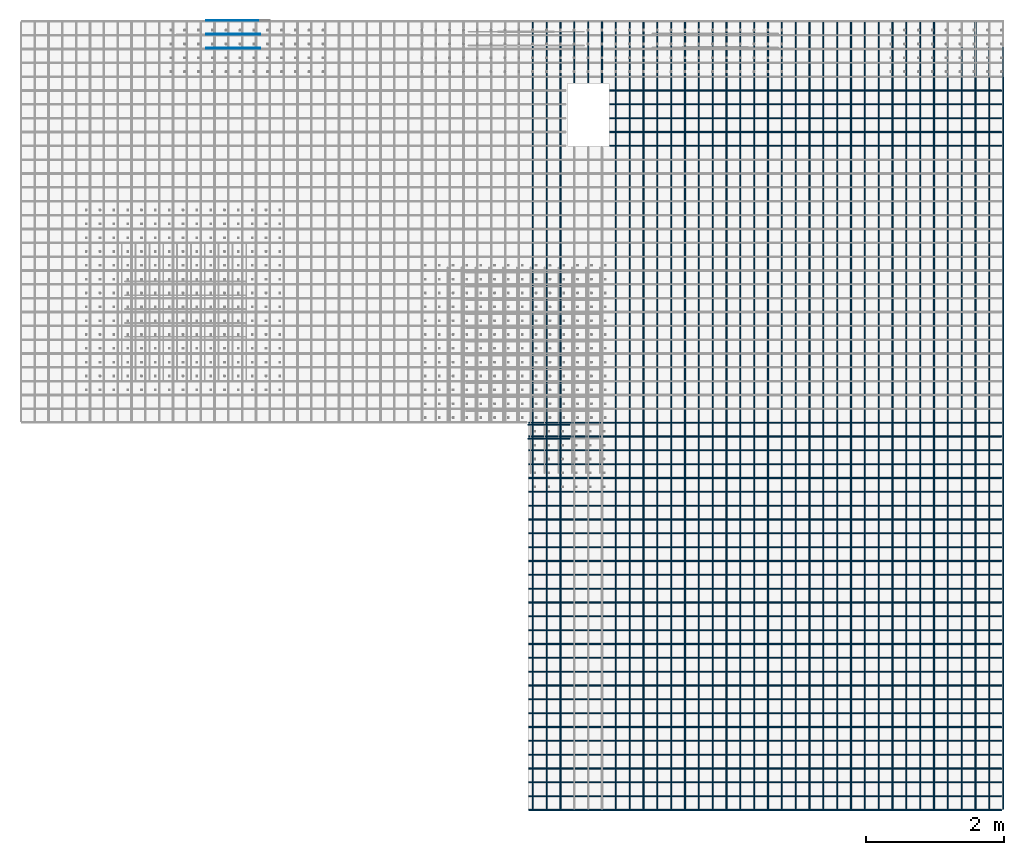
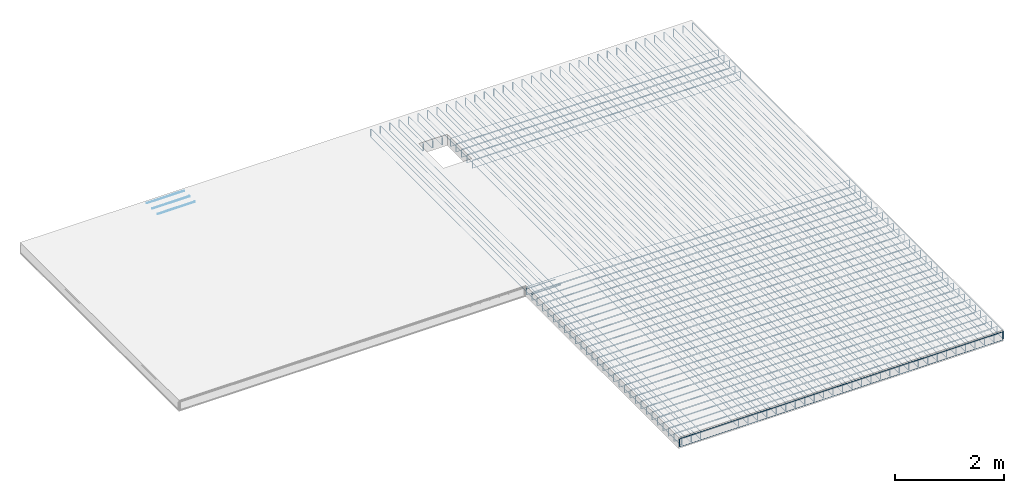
# One storey, part 3 of 4: 8 reinforcing bars.
"""IFC4 building model written with IfcOpenShell, lengths in metres."""

from ifc_helpers import new_model, entity, si_unit, frame, origin_with_axes, place, context, project, spatial, source, transform, mapped, element, save


model = new_model("IFC4")

# Units and contexts
model_context = context("Model", 3, precision=1e-05, world=origin_with_axes())
ifc_project = project(units=[si_unit("LENGTHUNIT", "METRE"), si_unit("AREAUNIT", "SQUARE_METRE"), si_unit("VOLUMEUNIT", "CUBIC_METRE"), si_unit("MASSUNIT", "GRAM", prefix="KILO"), si_unit("TIMEUNIT", "SECOND"), si_unit("PLANEANGLEUNIT", "RADIAN"), si_unit("SOLIDANGLEUNIT", "STERADIAN"), si_unit("THERMODYNAMICTEMPERATUREUNIT", "DEGREE_CELSIUS")], contexts=[model_context])

# Site, building, storey
placement_1 = place(None, origin_with_axes())
site = spatial("IfcSite", under=ifc_project, at=placement_1, Name="Italia", CompositionType="ELEMENT")
building = spatial("IfcBuilding", under=site, at=placement_1, Name="Abitazione", CompositionType="ELEMENT")
storey_placement = place(None, frame((0.0, 0.0, 6.730000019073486), z_axis=(0.0, 0.0, 1.0), x_axis=(1.0, 0.0, 0.0)))
storey = spatial("IfcBuildingStorey", under=building, at=storey_placement, Name="Storey 2", CompositionType="ELEMENT", Elevation=6.730000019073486)

# Reinforcing bars
shared_shape_1 = source(origin_with_axes(), model_context, "Body", "AdvancedSweptSolid", [
    entity("IfcSweptDiskSolid", entity("IfcIndexedPolyCurve", entity("IfcCartesianPointList3D", [[8.142, -0.00600027, 6.534], [8.142, -0.00600027, 6.69], [8.14276, -0.00600027, 6.69383], [8.14493, -0.00600027, 6.69707], [8.14817, -0.00600027, 6.69924], [8.152, -0.00600027, 6.7], [14.966, -0.00600027, 6.7], [14.9698, -0.00600027, 6.69924], [14.9731, -0.00600027, 6.69707], [14.9752, -0.00600027, 6.69383], [14.976, -0.00600027, 6.69], [14.976, -0.00600027, 6.534]]), [entity("IfcLineIndex", [1, 2]), entity("IfcLineIndex", [2, 3]), entity("IfcLineIndex", [3, 4]), entity("IfcLineIndex", [4, 5]), entity("IfcLineIndex", [5, 6]), entity("IfcLineIndex", [6, 7]), entity("IfcLineIndex", [7, 8]), entity("IfcLineIndex", [8, 9]), entity("IfcLineIndex", [9, 10]), entity("IfcLineIndex", [10, 11]), entity("IfcLineIndex", [11, 12])], False), 0.006),
])
placement_2 = place(placement_1, origin_with_axes())
reinforcing_bar_1_placement = place(placement_2, origin_with_axes())
element("IfcReinforcingBar", 1, at=reinforcing_bar_1_placement, inside=storey, BarLength=7.15721, CrossSectionArea=0.0001131, NominalDiameter=0.012, context=model_context, shape_type="MappedRepresentation", body=[
    mapped(shared_shape_1, transform((0.0, 0.0, 13.21), x_axis=(1.0, 0.0, 0.0), y_axis=(0.0, -1.0, 0.0), z_axis=(0.0, 0.0, -1.0), scale=1.0)),
    mapped(shared_shape_1, transform((0.0, 1.8, 13.21), x_axis=(1.0, 0.0, 0.0), y_axis=(0.0, -1.0, 0.0), z_axis=(0.0, 0.0, -1.0), scale=1.0)),
    mapped(shared_shape_1, transform((0.0, 0.199999, 13.21), x_axis=(1.0, 0.0, 0.0), y_axis=(0.0, -1.0, 0.0), z_axis=(0.0, 0.0, -1.0), scale=1.0)),
    mapped(shared_shape_1, transform((0.0, 2.0, 13.21), x_axis=(1.0, 0.0, 0.0), y_axis=(0.0, -1.0, 0.0), z_axis=(0.0, 0.0, -1.0), scale=1.0)),
    mapped(shared_shape_1, transform((0.0, 2.4, 13.21), x_axis=(1.0, 0.0, 0.0), y_axis=(0.0, -1.0, 0.0), z_axis=(0.0, 0.0, -1.0), scale=1.0)),
    mapped(shared_shape_1, transform((0.0, 2.2, 13.21), x_axis=(1.0, 0.0, 0.0), y_axis=(0.0, -1.0, 0.0), z_axis=(0.0, 0.0, -1.0), scale=1.0)),
    mapped(shared_shape_1, transform((0.0, 2.6, 13.21), x_axis=(1.0, 0.0, 0.0), y_axis=(0.0, -1.0, 0.0), z_axis=(0.0, 0.0, -1.0), scale=1.0)),
    mapped(shared_shape_1, transform((0.0, 1.6, 13.21), x_axis=(1.0, 0.0, 0.0), y_axis=(0.0, -1.0, 0.0), z_axis=(0.0, 0.0, -1.0), scale=1.0)),
    mapped(shared_shape_1, transform((0.0, 1.4, 13.21), x_axis=(1.0, 0.0, 0.0), y_axis=(0.0, -1.0, 0.0), z_axis=(0.0, 0.0, -1.0), scale=1.0)),
    mapped(shared_shape_1, transform((0.0, 0.399999, 13.21), x_axis=(1.0, 0.0, 0.0), y_axis=(0.0, -1.0, 0.0), z_axis=(0.0, 0.0, -1.0), scale=1.0)),
    mapped(shared_shape_1, transform((0.0, 0.799999, 13.21), x_axis=(1.0, 0.0, 0.0), y_axis=(0.0, -1.0, 0.0), z_axis=(0.0, 0.0, -1.0), scale=1.0)),
    mapped(shared_shape_1, transform((0.0, 0.599999, 13.21), x_axis=(1.0, 0.0, 0.0), y_axis=(0.0, -1.0, 0.0), z_axis=(0.0, 0.0, -1.0), scale=1.0)),
    mapped(shared_shape_1, transform((0.0, 0.999999, 13.21), x_axis=(1.0, 0.0, 0.0), y_axis=(0.0, -1.0, 0.0), z_axis=(0.0, 0.0, -1.0), scale=1.0)),
    mapped(shared_shape_1, transform((0.0, 2.8, 13.21), x_axis=(1.0, 0.0, 0.0), y_axis=(0.0, -1.0, 0.0), z_axis=(0.0, 0.0, -1.0), scale=1.0)),
    mapped(shared_shape_1, transform((0.0, 1.2, 13.21), x_axis=(1.0, 0.0, 0.0), y_axis=(0.0, -1.0, 0.0), z_axis=(0.0, 0.0, -1.0), scale=1.0)),
    mapped(shared_shape_1, transform((0.0, 3.0, 13.21), x_axis=(1.0, 0.0, 0.0), y_axis=(0.0, -1.0, 0.0), z_axis=(0.0, 0.0, -1.0), scale=1.0)),
    mapped(shared_shape_1, transform((0.0, 4.8, 13.21), x_axis=(1.0, 0.0, 0.0), y_axis=(0.0, -1.0, 0.0), z_axis=(0.0, 0.0, -1.0), scale=1.0)),
    mapped(shared_shape_1, transform((0.0, 4.6, 13.21), x_axis=(1.0, 0.0, 0.0), y_axis=(0.0, -1.0, 0.0), z_axis=(0.0, 0.0, -1.0), scale=1.0)),
    mapped(shared_shape_1, transform((0.0, 5.0, 13.21), x_axis=(1.0, 0.0, 0.0), y_axis=(0.0, -1.0, 0.0), z_axis=(0.0, 0.0, -1.0), scale=1.0)),
    mapped(shared_shape_1, transform((0.0, 5.4, 13.21), x_axis=(1.0, 0.0, 0.0), y_axis=(0.0, -1.0, 0.0), z_axis=(0.0, 0.0, -1.0), scale=1.0)),
    mapped(shared_shape_1, transform((0.0, 5.2, 13.21), x_axis=(1.0, 0.0, 0.0), y_axis=(0.0, -1.0, 0.0), z_axis=(0.0, 0.0, -1.0), scale=1.0)),
    mapped(shared_shape_1, transform((0.0, 4.2, 13.21), x_axis=(1.0, 0.0, 0.0), y_axis=(0.0, -1.0, 0.0), z_axis=(0.0, 0.0, -1.0), scale=1.0)),
    mapped(shared_shape_1, transform((0.0, 3.2, 13.21), x_axis=(1.0, 0.0, 0.0), y_axis=(0.0, -1.0, 0.0), z_axis=(0.0, 0.0, -1.0), scale=1.0)),
    mapped(shared_shape_1, transform((0.0, 4.4, 13.21), x_axis=(1.0, 0.0, 0.0), y_axis=(0.0, -1.0, 0.0), z_axis=(0.0, 0.0, -1.0), scale=1.0)),
    mapped(shared_shape_1, transform((0.0, 3.4, 13.21), x_axis=(1.0, 0.0, 0.0), y_axis=(0.0, -1.0, 0.0), z_axis=(0.0, 0.0, -1.0), scale=1.0)),
    mapped(shared_shape_1, transform((0.0, 3.8, 13.21), x_axis=(1.0, 0.0, 0.0), y_axis=(0.0, -1.0, 0.0), z_axis=(0.0, 0.0, -1.0), scale=1.0)),
    mapped(shared_shape_1, transform((0.0, 3.6, 13.21), x_axis=(1.0, 0.0, 0.0), y_axis=(0.0, -1.0, 0.0), z_axis=(0.0, 0.0, -1.0), scale=1.0)),
    mapped(shared_shape_1, transform((0.0, 4.0, 13.21), x_axis=(1.0, 0.0, 0.0), y_axis=(0.0, -1.0, 0.0), z_axis=(0.0, 0.0, -1.0), scale=1.0)),
    mapped(shared_shape_1, transform((0.0, 0.0, 0.0), x_axis=(1.0, 0.0, 0.0), y_axis=(0.0, 1.0, 0.0), z_axis=(0.0, 0.0, 1.0), scale=1.0)),
    mapped(shared_shape_1, transform((0.0, 5.6, 13.21), x_axis=(1.0, 0.0, 0.0), y_axis=(0.0, -1.0, 0.0), z_axis=(0.0, 0.0, -1.0), scale=1.0)),
    mapped(shared_shape_1, transform((0.0, 1.6, 0.0), x_axis=(1.0, 0.0, 0.0), y_axis=(0.0, 1.0, 0.0), z_axis=(0.0, 0.0, 1.0), scale=1.0)),
    mapped(shared_shape_1, transform((0.0, 2.0, 0.0), x_axis=(1.0, 0.0, 0.0), y_axis=(0.0, 1.0, 0.0), z_axis=(0.0, 0.0, 1.0), scale=1.0)),
    mapped(shared_shape_1, transform((0.0, 1.8, 0.0), x_axis=(1.0, 0.0, 0.0), y_axis=(0.0, 1.0, 0.0), z_axis=(0.0, 0.0, 1.0), scale=1.0)),
    mapped(shared_shape_1, transform((0.0, 2.2, 0.0), x_axis=(1.0, 0.0, 0.0), y_axis=(0.0, 1.0, 0.0), z_axis=(0.0, 0.0, 1.0), scale=1.0)),
    mapped(shared_shape_1, transform((0.0, 1.2, 0.0), x_axis=(1.0, 0.0, 0.0), y_axis=(0.0, 1.0, 0.0), z_axis=(0.0, 0.0, 1.0), scale=1.0)),
    mapped(shared_shape_1, transform((0.0, 2.4, 0.0), x_axis=(1.0, 0.0, 0.0), y_axis=(0.0, 1.0, 0.0), z_axis=(0.0, 0.0, 1.0), scale=1.0)),
    mapped(shared_shape_1, transform((0.0, 1.4, 0.0), x_axis=(1.0, 0.0, 0.0), y_axis=(0.0, 1.0, 0.0), z_axis=(0.0, 0.0, 1.0), scale=1.0)),
    mapped(shared_shape_1, transform((0.0, 0.4, 0.0), x_axis=(1.0, 0.0, 0.0), y_axis=(0.0, 1.0, 0.0), z_axis=(0.0, 0.0, 1.0), scale=1.0)),
    mapped(shared_shape_1, transform((0.0, 0.2, 0.0), x_axis=(1.0, 0.0, 0.0), y_axis=(0.0, 1.0, 0.0), z_axis=(0.0, 0.0, 1.0), scale=1.0)),
    mapped(shared_shape_1, transform((0.0, 0.6, 0.0), x_axis=(1.0, 0.0, 0.0), y_axis=(0.0, 1.0, 0.0), z_axis=(0.0, 0.0, 1.0), scale=1.0)),
    mapped(shared_shape_1, transform((0.0, 1.0, 0.0), x_axis=(1.0, 0.0, 0.0), y_axis=(0.0, 1.0, 0.0), z_axis=(0.0, 0.0, 1.0), scale=1.0)),
    mapped(shared_shape_1, transform((0.0, 0.8, 0.0), x_axis=(1.0, 0.0, 0.0), y_axis=(0.0, 1.0, 0.0), z_axis=(0.0, 0.0, 1.0), scale=1.0)),
    mapped(shared_shape_1, transform((0.0, 2.6, 0.0), x_axis=(1.0, 0.0, 0.0), y_axis=(0.0, 1.0, 0.0), z_axis=(0.0, 0.0, 1.0), scale=1.0)),
    mapped(shared_shape_1, transform((0.0, 4.4, 0.0), x_axis=(1.0, 0.0, 0.0), y_axis=(0.0, 1.0, 0.0), z_axis=(0.0, 0.0, 1.0), scale=1.0)),
    mapped(shared_shape_1, transform((0.0, 2.8, 0.0), x_axis=(1.0, 0.0, 0.0), y_axis=(0.0, 1.0, 0.0), z_axis=(0.0, 0.0, 1.0), scale=1.0)),
    mapped(shared_shape_1, transform((0.0, 4.6, 0.0), x_axis=(1.0, 0.0, 0.0), y_axis=(0.0, 1.0, 0.0), z_axis=(0.0, 0.0, 1.0), scale=1.0)),
    mapped(shared_shape_1, transform((0.0, 5.0, 0.0), x_axis=(1.0, 0.0, 0.0), y_axis=(0.0, 1.0, 0.0), z_axis=(0.0, 0.0, 1.0), scale=1.0)),
    mapped(shared_shape_1, transform((0.0, 4.8, 0.0), x_axis=(1.0, 0.0, 0.0), y_axis=(0.0, 1.0, 0.0), z_axis=(0.0, 0.0, 1.0), scale=1.0)),
    mapped(shared_shape_1, transform((0.0, 5.2, 0.0), x_axis=(1.0, 0.0, 0.0), y_axis=(0.0, 1.0, 0.0), z_axis=(0.0, 0.0, 1.0), scale=1.0)),
    mapped(shared_shape_1, transform((0.0, 4.2, 0.0), x_axis=(1.0, 0.0, 0.0), y_axis=(0.0, 1.0, 0.0), z_axis=(0.0, 0.0, 1.0), scale=1.0)),
    mapped(shared_shape_1, transform((0.0, 4.0, 0.0), x_axis=(1.0, 0.0, 0.0), y_axis=(0.0, 1.0, 0.0), z_axis=(0.0, 0.0, 1.0), scale=1.0)),
    mapped(shared_shape_1, transform((0.0, 3.0, 0.0), x_axis=(1.0, 0.0, 0.0), y_axis=(0.0, 1.0, 0.0), z_axis=(0.0, 0.0, 1.0), scale=1.0)),
    mapped(shared_shape_1, transform((0.0, 3.4, 0.0), x_axis=(1.0, 0.0, 0.0), y_axis=(0.0, 1.0, 0.0), z_axis=(0.0, 0.0, 1.0), scale=1.0)),
    mapped(shared_shape_1, transform((0.0, 3.2, 0.0), x_axis=(1.0, 0.0, 0.0), y_axis=(0.0, 1.0, 0.0), z_axis=(0.0, 0.0, 1.0), scale=1.0)),
    mapped(shared_shape_1, transform((0.0, 3.6, 0.0), x_axis=(1.0, 0.0, 0.0), y_axis=(0.0, 1.0, 0.0), z_axis=(0.0, 0.0, 1.0), scale=1.0)),
    mapped(shared_shape_1, transform((0.0, 5.4, 0.0), x_axis=(1.0, 0.0, 0.0), y_axis=(0.0, 1.0, 0.0), z_axis=(0.0, 0.0, 1.0), scale=1.0)),
    mapped(shared_shape_1, transform((0.0, 3.8, 0.0), x_axis=(1.0, 0.0, 0.0), y_axis=(0.0, 1.0, 0.0), z_axis=(0.0, 0.0, 1.0), scale=1.0)),
    mapped(shared_shape_1, transform((0.0, 5.6, 0.0), x_axis=(1.0, 0.0, 0.0), y_axis=(0.0, 1.0, 0.0), z_axis=(0.0, 0.0, 1.0), scale=1.0)),
])
shared_shape_2 = source(origin_with_axes(), model_context, "Body", "AdvancedSweptSolid", [
    entity("IfcSweptDiskSolid", entity("IfcIndexedPolyCurve", entity("IfcCartesianPointList3D", [[9.312, 9.594, 6.534], [9.312, 9.594, 6.69], [9.31276, 9.594, 6.69383], [9.31493, 9.594, 6.69707], [9.31817, 9.594, 6.69924], [9.322, 9.594, 6.7], [14.966, 9.594, 6.7], [14.9698, 9.594, 6.69924], [14.9731, 9.594, 6.69707], [14.9752, 9.594, 6.69383], [14.976, 9.594, 6.69], [14.976, 9.594, 6.534]]), [entity("IfcLineIndex", [1, 2]), entity("IfcLineIndex", [2, 3]), entity("IfcLineIndex", [3, 4]), entity("IfcLineIndex", [4, 5]), entity("IfcLineIndex", [5, 6]), entity("IfcLineIndex", [6, 7]), entity("IfcLineIndex", [7, 8]), entity("IfcLineIndex", [8, 9]), entity("IfcLineIndex", [9, 10]), entity("IfcLineIndex", [10, 11]), entity("IfcLineIndex", [11, 12])], False), 0.006),
])
reinforcing_bar_2_placement = place(placement_2, origin_with_axes())
element("IfcReinforcingBar", 2, at=reinforcing_bar_2_placement, inside=storey, BarLength=5.98721, CrossSectionArea=0.0001131, NominalDiameter=0.012, context=model_context, shape_type="MappedRepresentation", body=[
    mapped(shared_shape_2, transform((0.0, 19.4, 13.21), x_axis=(1.0, 0.0, 0.0), y_axis=(0.0, -1.0, 0.0), z_axis=(0.0, 0.0, -1.0), scale=1.0)),
    mapped(shared_shape_2, transform((0.0, 19.2, 13.21), x_axis=(1.0, 0.0, 0.0), y_axis=(0.0, -1.0, 0.0), z_axis=(0.0, 0.0, -1.0), scale=1.0)),
    mapped(shared_shape_2, transform((0.0, 19.8, 13.21), x_axis=(1.0, 0.0, 0.0), y_axis=(0.0, -1.0, 0.0), z_axis=(0.0, 0.0, -1.0), scale=1.0)),
    mapped(shared_shape_2, transform((0.0, 19.6, 13.21), x_axis=(1.0, 0.0, 0.0), y_axis=(0.0, -1.0, 0.0), z_axis=(0.0, 0.0, -1.0), scale=1.0)),
    mapped(shared_shape_2, transform((0.0, 0.0, 0.0), x_axis=(1.0, 0.0, 0.0), y_axis=(0.0, 1.0, 0.0), z_axis=(0.0, 0.0, 1.0), scale=1.0)),
    mapped(shared_shape_2, transform((0.0, 20.0, 13.21), x_axis=(1.0, 0.0, 0.0), y_axis=(0.0, -1.0, 0.0), z_axis=(0.0, 0.0, -1.0), scale=1.0)),
    mapped(shared_shape_2, transform((0.0, 0.399999, 0.0), x_axis=(1.0, 0.0, 0.0), y_axis=(0.0, 1.0, 0.0), z_axis=(0.0, 0.0, 1.0), scale=1.0)),
    mapped(shared_shape_2, transform((0.0, 0.199999, 0.0), x_axis=(1.0, 0.0, 0.0), y_axis=(0.0, 1.0, 0.0), z_axis=(0.0, 0.0, 1.0), scale=1.0)),
    mapped(shared_shape_2, transform((0.0, 0.799998, 0.0), x_axis=(1.0, 0.0, 0.0), y_axis=(0.0, 1.0, 0.0), z_axis=(0.0, 0.0, 1.0), scale=1.0)),
    mapped(shared_shape_2, transform((0.0, 0.599998, 0.0), x_axis=(1.0, 0.0, 0.0), y_axis=(0.0, 1.0, 0.0), z_axis=(0.0, 0.0, 1.0), scale=1.0)),
])
shared_shape_3 = source(origin_with_axes(), model_context, "Body", "AdvancedSweptSolid", [
    entity("IfcSweptDiskSolid", entity("IfcIndexedPolyCurve", entity("IfcCartesianPointList3D", [[8.206, 0.012, 6.522], [8.206, 0.012, 6.678], [8.206, 0.0127612, 6.68183], [8.206, 0.0149289, 6.68507], [8.206, 0.0181732, 6.68724], [8.206, 0.022, 6.688], [8.206, 11.386, 6.688], [8.206, 11.3898, 6.68724], [8.206, 11.3931, 6.68507], [8.206, 11.3952, 6.68183], [8.206, 11.396, 6.678], [8.206, 11.396, 6.522]]), [entity("IfcLineIndex", [1, 2]), entity("IfcLineIndex", [2, 3]), entity("IfcLineIndex", [3, 4]), entity("IfcLineIndex", [4, 5]), entity("IfcLineIndex", [5, 6]), entity("IfcLineIndex", [6, 7]), entity("IfcLineIndex", [7, 8]), entity("IfcLineIndex", [8, 9]), entity("IfcLineIndex", [9, 10]), entity("IfcLineIndex", [10, 11]), entity("IfcLineIndex", [11, 12])], False), 0.006),
])
reinforcing_bar_3_placement = place(placement_2, origin_with_axes())
element("IfcReinforcingBar", 3, at=reinforcing_bar_3_placement, inside=storey, BarLength=11.7072, CrossSectionArea=0.0001131, NominalDiameter=0.012, context=model_context, shape_type="MappedRepresentation", body=[
    mapped(shared_shape_3, transform((4.8, 0.0, 0.0), x_axis=(1.0, 0.0, 0.0), y_axis=(0.0, 1.0, 0.0), z_axis=(0.0, 0.0, 1.0), scale=1.0)),
    mapped(shared_shape_3, transform((4.6, 0.0, 0.0), x_axis=(1.0, 0.0, 0.0), y_axis=(0.0, 1.0, 0.0), z_axis=(0.0, 0.0, 1.0), scale=1.0)),
    mapped(shared_shape_3, transform((5.2, 0.0, 0.0), x_axis=(1.0, 0.0, 0.0), y_axis=(0.0, 1.0, 0.0), z_axis=(0.0, 0.0, 1.0), scale=1.0)),
    mapped(shared_shape_3, transform((5.0, 0.0, 0.0), x_axis=(1.0, 0.0, 0.0), y_axis=(0.0, 1.0, 0.0), z_axis=(0.0, 0.0, 1.0), scale=1.0)),
    mapped(shared_shape_3, transform((4.0, 0.0, 0.0), x_axis=(1.0, 0.0, 0.0), y_axis=(0.0, 1.0, 0.0), z_axis=(0.0, 0.0, 1.0), scale=1.0)),
    mapped(shared_shape_3, transform((3.8, 0.0, 0.0), x_axis=(1.0, 0.0, 0.0), y_axis=(0.0, 1.0, 0.0), z_axis=(0.0, 0.0, 1.0), scale=1.0)),
    mapped(shared_shape_3, transform((4.4, 0.0, 0.0), x_axis=(1.0, 0.0, 0.0), y_axis=(0.0, 1.0, 0.0), z_axis=(0.0, 0.0, 1.0), scale=1.0)),
    mapped(shared_shape_3, transform((4.2, 0.0, 0.0), x_axis=(1.0, 0.0, 0.0), y_axis=(0.0, 1.0, 0.0), z_axis=(0.0, 0.0, 1.0), scale=1.0)),
    mapped(shared_shape_3, transform((6.39999, 0.0, 0.0), x_axis=(1.0, 0.0, 0.0), y_axis=(0.0, 1.0, 0.0), z_axis=(0.0, 0.0, 1.0), scale=1.0)),
    mapped(shared_shape_3, transform((6.19999, 0.0, 0.0), x_axis=(1.0, 0.0, 0.0), y_axis=(0.0, 1.0, 0.0), z_axis=(0.0, 0.0, 1.0), scale=1.0)),
    mapped(shared_shape_3, transform((6.79999, 0.0, 0.0), x_axis=(1.0, 0.0, 0.0), y_axis=(0.0, 1.0, 0.0), z_axis=(0.0, 0.0, 1.0), scale=1.0)),
    mapped(shared_shape_3, transform((6.59999, 0.0, 0.0), x_axis=(1.0, 0.0, 0.0), y_axis=(0.0, 1.0, 0.0), z_axis=(0.0, 0.0, 1.0), scale=1.0)),
    mapped(shared_shape_3, transform((5.59999, 0.0, 0.0), x_axis=(1.0, 0.0, 0.0), y_axis=(0.0, 1.0, 0.0), z_axis=(0.0, 0.0, 1.0), scale=1.0)),
    mapped(shared_shape_3, transform((5.39999, 0.0, 0.0), x_axis=(1.0, 0.0, 0.0), y_axis=(0.0, 1.0, 0.0), z_axis=(0.0, 0.0, 1.0), scale=1.0)),
    mapped(shared_shape_3, transform((5.99999, 0.0, 0.0), x_axis=(1.0, 0.0, 0.0), y_axis=(0.0, 1.0, 0.0), z_axis=(0.0, 0.0, 1.0), scale=1.0)),
    mapped(shared_shape_3, transform((5.79999, 0.0, 0.0), x_axis=(1.0, 0.0, 0.0), y_axis=(0.0, 1.0, 0.0), z_axis=(0.0, 0.0, 1.0), scale=1.0)),
    mapped(shared_shape_3, transform((1.6, 0.0, 0.0), x_axis=(1.0, 0.0, 0.0), y_axis=(0.0, 1.0, 0.0), z_axis=(0.0, 0.0, 1.0), scale=1.0)),
    mapped(shared_shape_3, transform((1.4, 0.0, 0.0), x_axis=(1.0, 0.0, 0.0), y_axis=(0.0, 1.0, 0.0), z_axis=(0.0, 0.0, 1.0), scale=1.0)),
    mapped(shared_shape_3, transform((2.0, 0.0, 0.0), x_axis=(1.0, 0.0, 0.0), y_axis=(0.0, 1.0, 0.0), z_axis=(0.0, 0.0, 1.0), scale=1.0)),
    mapped(shared_shape_3, transform((1.8, 0.0, 0.0), x_axis=(1.0, 0.0, 0.0), y_axis=(0.0, 1.0, 0.0), z_axis=(0.0, 0.0, 1.0), scale=1.0)),
    mapped(shared_shape_3, transform((0.2, 0.0, 0.0), x_axis=(1.0, 0.0, 0.0), y_axis=(0.0, 1.0, 0.0), z_axis=(0.0, 0.0, 1.0), scale=1.0)),
    mapped(shared_shape_3, transform((0.0, 0.0, 0.0), x_axis=(1.0, 0.0, 0.0), y_axis=(0.0, 1.0, 0.0), z_axis=(0.0, 0.0, 1.0), scale=1.0)),
    mapped(shared_shape_3, transform((1.2, 0.0, 0.0), x_axis=(1.0, 0.0, 0.0), y_axis=(0.0, 1.0, 0.0), z_axis=(0.0, 0.0, 1.0), scale=1.0)),
    mapped(shared_shape_3, transform((0.4, 0.0, 0.0), x_axis=(1.0, 0.0, 0.0), y_axis=(0.0, 1.0, 0.0), z_axis=(0.0, 0.0, 1.0), scale=1.0)),
    mapped(shared_shape_3, transform((3.2, 0.0, 0.0), x_axis=(1.0, 0.0, 0.0), y_axis=(0.0, 1.0, 0.0), z_axis=(0.0, 0.0, 1.0), scale=1.0)),
    mapped(shared_shape_3, transform((3.0, 0.0, 0.0), x_axis=(1.0, 0.0, 0.0), y_axis=(0.0, 1.0, 0.0), z_axis=(0.0, 0.0, 1.0), scale=1.0)),
    mapped(shared_shape_3, transform((3.6, 0.0, 0.0), x_axis=(1.0, 0.0, 0.0), y_axis=(0.0, 1.0, 0.0), z_axis=(0.0, 0.0, 1.0), scale=1.0)),
    mapped(shared_shape_3, transform((3.4, 0.0, 0.0), x_axis=(1.0, 0.0, 0.0), y_axis=(0.0, 1.0, 0.0), z_axis=(0.0, 0.0, 1.0), scale=1.0)),
    mapped(shared_shape_3, transform((2.4, 0.0, 0.0), x_axis=(1.0, 0.0, 0.0), y_axis=(0.0, 1.0, 0.0), z_axis=(0.0, 0.0, 1.0), scale=1.0)),
    mapped(shared_shape_3, transform((2.2, 0.0, 0.0), x_axis=(1.0, 0.0, 0.0), y_axis=(0.0, 1.0, 0.0), z_axis=(0.0, 0.0, 1.0), scale=1.0)),
    mapped(shared_shape_3, transform((2.8, 0.0, 0.0), x_axis=(1.0, 0.0, 0.0), y_axis=(0.0, 1.0, 0.0), z_axis=(0.0, 0.0, 1.0), scale=1.0)),
    mapped(shared_shape_3, transform((2.6, 0.0, 0.0), x_axis=(1.0, 0.0, 0.0), y_axis=(0.0, 1.0, 0.0), z_axis=(0.0, 0.0, 1.0), scale=1.0)),
    mapped(shared_shape_3, transform((21.2, 0.0, 13.21), x_axis=(-1.0, 0.0, 0.0), y_axis=(0.0, 1.0, 0.0), z_axis=(0.0, 0.0, -1.0), scale=1.0)),
    mapped(shared_shape_3, transform((21.0, 0.0, 13.21), x_axis=(-1.0, 0.0, 0.0), y_axis=(0.0, 1.0, 0.0), z_axis=(0.0, 0.0, -1.0), scale=1.0)),
    mapped(shared_shape_3, transform((21.6, 0.0, 13.21), x_axis=(-1.0, 0.0, 0.0), y_axis=(0.0, 1.0, 0.0), z_axis=(0.0, 0.0, -1.0), scale=1.0)),
    mapped(shared_shape_3, transform((21.4, 0.0, 13.21), x_axis=(-1.0, 0.0, 0.0), y_axis=(0.0, 1.0, 0.0), z_axis=(0.0, 0.0, -1.0), scale=1.0)),
    mapped(shared_shape_3, transform((20.4, 0.0, 13.21), x_axis=(-1.0, 0.0, 0.0), y_axis=(0.0, 1.0, 0.0), z_axis=(0.0, 0.0, -1.0), scale=1.0)),
    mapped(shared_shape_3, transform((20.2, 0.0, 13.21), x_axis=(-1.0, 0.0, 0.0), y_axis=(0.0, 1.0, 0.0), z_axis=(0.0, 0.0, -1.0), scale=1.0)),
    mapped(shared_shape_3, transform((20.8, 0.0, 13.21), x_axis=(-1.0, 0.0, 0.0), y_axis=(0.0, 1.0, 0.0), z_axis=(0.0, 0.0, -1.0), scale=1.0)),
    mapped(shared_shape_3, transform((20.6, 0.0, 13.21), x_axis=(-1.0, 0.0, 0.0), y_axis=(0.0, 1.0, 0.0), z_axis=(0.0, 0.0, -1.0), scale=1.0)),
    mapped(shared_shape_3, transform((22.8, 0.0, 13.21), x_axis=(-1.0, 0.0, 0.0), y_axis=(0.0, 1.0, 0.0), z_axis=(0.0, 0.0, -1.0), scale=1.0)),
    mapped(shared_shape_3, transform((22.6, 0.0, 13.21), x_axis=(-1.0, 0.0, 0.0), y_axis=(0.0, 1.0, 0.0), z_axis=(0.0, 0.0, -1.0), scale=1.0)),
    mapped(shared_shape_3, transform((23.2, 0.0, 13.21), x_axis=(-1.0, 0.0, 0.0), y_axis=(0.0, 1.0, 0.0), z_axis=(0.0, 0.0, -1.0), scale=1.0)),
    mapped(shared_shape_3, transform((23.0, 0.0, 13.21), x_axis=(-1.0, 0.0, 0.0), y_axis=(0.0, 1.0, 0.0), z_axis=(0.0, 0.0, -1.0), scale=1.0)),
    mapped(shared_shape_3, transform((22.0, 0.0, 13.21), x_axis=(-1.0, 0.0, 0.0), y_axis=(0.0, 1.0, 0.0), z_axis=(0.0, 0.0, -1.0), scale=1.0)),
    mapped(shared_shape_3, transform((21.8, 0.0, 13.21), x_axis=(-1.0, 0.0, 0.0), y_axis=(0.0, 1.0, 0.0), z_axis=(0.0, 0.0, -1.0), scale=1.0)),
    mapped(shared_shape_3, transform((22.4, 0.0, 13.21), x_axis=(-1.0, 0.0, 0.0), y_axis=(0.0, 1.0, 0.0), z_axis=(0.0, 0.0, -1.0), scale=1.0)),
    mapped(shared_shape_3, transform((22.2, 0.0, 13.21), x_axis=(-1.0, 0.0, 0.0), y_axis=(0.0, 1.0, 0.0), z_axis=(0.0, 0.0, -1.0), scale=1.0)),
    mapped(shared_shape_3, transform((18.0, 0.0, 13.21), x_axis=(-1.0, 0.0, 0.0), y_axis=(0.0, 1.0, 0.0), z_axis=(0.0, 0.0, -1.0), scale=1.0)),
    mapped(shared_shape_3, transform((17.8, 0.0, 13.21), x_axis=(-1.0, 0.0, 0.0), y_axis=(0.0, 1.0, 0.0), z_axis=(0.0, 0.0, -1.0), scale=1.0)),
    mapped(shared_shape_3, transform((18.4, 0.0, 13.21), x_axis=(-1.0, 0.0, 0.0), y_axis=(0.0, 1.0, 0.0), z_axis=(0.0, 0.0, -1.0), scale=1.0)),
    mapped(shared_shape_3, transform((18.2, 0.0, 13.21), x_axis=(-1.0, 0.0, 0.0), y_axis=(0.0, 1.0, 0.0), z_axis=(0.0, 0.0, -1.0), scale=1.0)),
    mapped(shared_shape_3, transform((16.6, 0.0, 13.21), x_axis=(-1.0, 0.0, 0.0), y_axis=(0.0, 1.0, 0.0), z_axis=(0.0, 0.0, -1.0), scale=1.0)),
    mapped(shared_shape_3, transform((16.4, 0.0, 13.21), x_axis=(-1.0, 0.0, 0.0), y_axis=(0.0, 1.0, 0.0), z_axis=(0.0, 0.0, -1.0), scale=1.0)),
    mapped(shared_shape_3, transform((17.6, 0.0, 13.21), x_axis=(-1.0, 0.0, 0.0), y_axis=(0.0, 1.0, 0.0), z_axis=(0.0, 0.0, -1.0), scale=1.0)),
    mapped(shared_shape_3, transform((16.8, 0.0, 13.21), x_axis=(-1.0, 0.0, 0.0), y_axis=(0.0, 1.0, 0.0), z_axis=(0.0, 0.0, -1.0), scale=1.0)),
    mapped(shared_shape_3, transform((19.6, 0.0, 13.21), x_axis=(-1.0, 0.0, 0.0), y_axis=(0.0, 1.0, 0.0), z_axis=(0.0, 0.0, -1.0), scale=1.0)),
    mapped(shared_shape_3, transform((19.4, 0.0, 13.21), x_axis=(-1.0, 0.0, 0.0), y_axis=(0.0, 1.0, 0.0), z_axis=(0.0, 0.0, -1.0), scale=1.0)),
    mapped(shared_shape_3, transform((20.0, 0.0, 13.21), x_axis=(-1.0, 0.0, 0.0), y_axis=(0.0, 1.0, 0.0), z_axis=(0.0, 0.0, -1.0), scale=1.0)),
    mapped(shared_shape_3, transform((19.8, 0.0, 13.21), x_axis=(-1.0, 0.0, 0.0), y_axis=(0.0, 1.0, 0.0), z_axis=(0.0, 0.0, -1.0), scale=1.0)),
    mapped(shared_shape_3, transform((18.8, 0.0, 13.21), x_axis=(-1.0, 0.0, 0.0), y_axis=(0.0, 1.0, 0.0), z_axis=(0.0, 0.0, -1.0), scale=1.0)),
    mapped(shared_shape_3, transform((18.6, 0.0, 13.21), x_axis=(-1.0, 0.0, 0.0), y_axis=(0.0, 1.0, 0.0), z_axis=(0.0, 0.0, -1.0), scale=1.0)),
    mapped(shared_shape_3, transform((19.2, 0.0, 13.21), x_axis=(-1.0, 0.0, 0.0), y_axis=(0.0, 1.0, 0.0), z_axis=(0.0, 0.0, -1.0), scale=1.0)),
    mapped(shared_shape_3, transform((19.0, 0.0, 13.21), x_axis=(-1.0, 0.0, 0.0), y_axis=(0.0, 1.0, 0.0), z_axis=(0.0, 0.0, -1.0), scale=1.0)),
])
shared_shape_4 = source(origin_with_axes(), model_context, "Body", "AdvancedSweptSolid", [
    entity("IfcSweptDiskSolid", entity("IfcIndexedPolyCurve", entity("IfcCartesianPointList3D", [[8.80599, 10.512, 6.522], [8.80599, 10.512, 6.678], [8.80599, 10.5128, 6.68183], [8.80599, 10.5149, 6.68507], [8.80599, 10.5182, 6.68724], [8.80599, 10.522, 6.688], [8.80599, 11.386, 6.688], [8.80599, 11.3898, 6.68724], [8.80599, 11.3931, 6.68507], [8.80599, 11.3952, 6.68183], [8.80599, 11.396, 6.678], [8.80599, 11.396, 6.522]]), [entity("IfcLineIndex", [1, 2]), entity("IfcLineIndex", [2, 3]), entity("IfcLineIndex", [3, 4]), entity("IfcLineIndex", [4, 5]), entity("IfcLineIndex", [5, 6]), entity("IfcLineIndex", [6, 7]), entity("IfcLineIndex", [7, 8]), entity("IfcLineIndex", [8, 9]), entity("IfcLineIndex", [9, 10]), entity("IfcLineIndex", [10, 11]), entity("IfcLineIndex", [11, 12])], False), 0.006),
])
reinforcing_bar_4_placement = place(placement_2, origin_with_axes())
element("IfcReinforcingBar", 4, at=reinforcing_bar_4_placement, inside=storey, BarLength=1.20721, CrossSectionArea=0.0001131, NominalDiameter=0.012, context=model_context, shape_type="MappedRepresentation", body=[
    mapped(shared_shape_4, transform((0.4, 0.0, 0.0), x_axis=(1.0, 0.0, 0.0), y_axis=(0.0, 1.0, 0.0), z_axis=(0.0, 0.0, 1.0), scale=1.0)),
    mapped(shared_shape_4, transform((0.2, 0.0, 0.0), x_axis=(1.0, 0.0, 0.0), y_axis=(0.0, 1.0, 0.0), z_axis=(0.0, 0.0, 1.0), scale=1.0)),
    mapped(shared_shape_4, transform((0.0, 0.0, 0.0), x_axis=(1.0, 0.0, 0.0), y_axis=(0.0, 1.0, 0.0), z_axis=(0.0, 0.0, 1.0), scale=1.0)),
    mapped(shared_shape_4, transform((18.0, 0.0, 13.21), x_axis=(-1.0, 0.0, 0.0), y_axis=(0.0, 1.0, 0.0), z_axis=(0.0, 0.0, -1.0), scale=1.0)),
    mapped(shared_shape_4, transform((17.8, 0.0, 13.21), x_axis=(-1.0, 0.0, 0.0), y_axis=(0.0, 1.0, 0.0), z_axis=(0.0, 0.0, -1.0), scale=1.0)),
    mapped(shared_shape_4, transform((17.6, 0.0, 13.21), x_axis=(-1.0, 0.0, 0.0), y_axis=(0.0, 1.0, 0.0), z_axis=(0.0, 0.0, -1.0), scale=1.0)),
])
shared_shape_5 = source(origin_with_axes(), model_context, "Body", "AdvancedSweptSolid", [
    entity("IfcSweptDiskSolid", entity("IfcIndexedPolyCurve", entity("IfcCartesianPointList3D", [[8.13, 5.36872, 6.676], [8.7334, 5.36872, 6.676]]), [entity("IfcLineIndex", [1, 2])], False), 0.006),
])
reinforcing_bar_5_placement = place(placement_2, origin_with_axes())
element("IfcReinforcingBar", 5, at=reinforcing_bar_5_placement, inside=storey, BarLength=0.603401, CrossSectionArea=0.0001131, NominalDiameter=0.012, context=model_context, shape_type="MappedRepresentation", body=[
    mapped(shared_shape_5, transform((0.0, 0.2, 0.0), x_axis=(1.0, 0.0, 0.0), y_axis=(0.0, 1.0, 0.0), z_axis=(0.0, 0.0, 1.0), scale=1.0)),
    mapped(shared_shape_5, transform((0.0, 0.0, 0.0), x_axis=(1.0, 0.0, 0.0), y_axis=(0.0, 1.0, 0.0), z_axis=(0.0, 0.0, 1.0), scale=1.0)),
])
shared_shape_6 = source(origin_with_axes(), model_context, "Body", "AdvancedSweptSolid", [
    entity("IfcSweptDiskSolid", entity("IfcIndexedPolyCurve", entity("IfcCartesianPointList3D", [[3.47671, 11.0124, 6.676], [4.25793, 11.0124, 6.676]]), [entity("IfcLineIndex", [1, 2])], False), 0.006),
])
reinforcing_bar_6_placement = place(placement_2, origin_with_axes())
element("IfcReinforcingBar", 6, at=reinforcing_bar_6_placement, inside=storey, BarLength=0.781222, CrossSectionArea=0.0001131, NominalDiameter=0.012, context=model_context, shape_type="MappedRepresentation", body=[
    mapped(shared_shape_6, transform((0.0, 0.0, 0.0), x_axis=(1.0, 0.0, 0.0), y_axis=(0.0, 1.0, 0.0), z_axis=(0.0, 0.0, 1.0), scale=1.0)),
])
shared_shape_7 = source(origin_with_axes(), model_context, "Body", "AdvancedSweptSolid", [
    entity("IfcSweptDiskSolid", entity("IfcIndexedPolyCurve", entity("IfcCartesianPointList3D", [[3.47671, 11.2124, 6.676], [4.26027, 11.2124, 6.676]]), [entity("IfcLineIndex", [1, 2])], False), 0.006),
])
reinforcing_bar_7_placement = place(placement_2, origin_with_axes())
element("IfcReinforcingBar", 7, at=reinforcing_bar_7_placement, inside=storey, BarLength=0.783555, CrossSectionArea=0.0001131, NominalDiameter=0.012, context=model_context, shape_type="MappedRepresentation", body=[
    mapped(shared_shape_7, transform((0.0, 0.0, 0.0), x_axis=(1.0, 0.0, 0.0), y_axis=(0.0, 1.0, 0.0), z_axis=(0.0, 0.0, 1.0), scale=1.0)),
])
shared_shape_8 = source(origin_with_axes(), model_context, "Body", "AdvancedSweptSolid", [
    entity("IfcSweptDiskSolid", entity("IfcIndexedPolyCurve", entity("IfcCartesianPointList3D", [[3.47671, 11.4124, 6.676], [4.2626, 11.4124, 6.676]]), [entity("IfcLineIndex", [1, 2])], False), 0.006),
])
reinforcing_bar_8_placement = place(placement_2, origin_with_axes())
element("IfcReinforcingBar", 8, at=reinforcing_bar_8_placement, inside=storey, BarLength=0.785886, CrossSectionArea=0.0001131, NominalDiameter=0.012, context=model_context, shape_type="MappedRepresentation", body=[
    mapped(shared_shape_8, transform((0.0, 0.0, 0.0), x_axis=(1.0, 0.0, 0.0), y_axis=(0.0, 1.0, 0.0), z_axis=(0.0, 0.0, 1.0), scale=1.0)),
])

save(model, "model.ifc")
